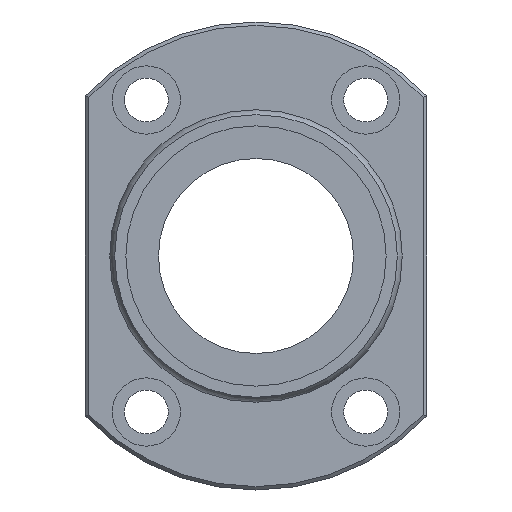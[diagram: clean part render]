
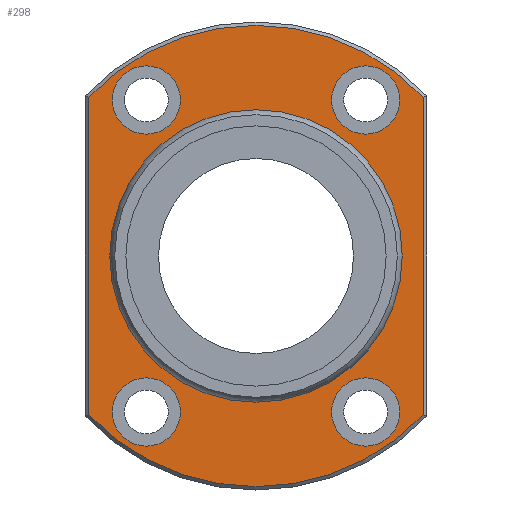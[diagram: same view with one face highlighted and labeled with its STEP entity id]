
A CAD part, left-side view. The second image highlights one B-rep face of the part: STEP entity #298.
In plain terms, the highlighted planar face has unit normal (-1, 0, 0).
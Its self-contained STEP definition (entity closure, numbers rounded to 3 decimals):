
#59=CARTESIAN_POINT('',(70.0,-34.3,32.57));
#60=VERTEX_POINT('',#59);
#68=CARTESIAN_POINT('',(70.0,-34.3,-32.57));
#69=VERTEX_POINT('',#68);
#70=CARTESIAN_POINT('',(70.0,-34.3,32.57));
#71=DIRECTION('',(0.0,0.0,-1.0));
#72=VECTOR('',#71,65.14);
#73=LINE('',#70,#72);
#74=EDGE_CURVE('',#60,#69,#73,.T.);
#101=CARTESIAN_POINT('',(70.0,34.3,-32.57));
#102=VERTEX_POINT('',#101);
#103=CARTESIAN_POINT('',(70.0,0.0,0.0));
#104=DIRECTION('',(1.0,0.0,0.0));
#105=DIRECTION('',(0.0,0.0,-1.0));
#106=AXIS2_PLACEMENT_3D('',#103,#104,#105);
#107=CIRCLE('',#106,47.3);
#108=EDGE_CURVE('',#69,#102,#107,.T.);
#134=CARTESIAN_POINT('',(70.0,34.3,32.57));
#135=VERTEX_POINT('',#134);
#136=CARTESIAN_POINT('',(70.0,34.3,-32.57));
#137=DIRECTION('',(0.0,0.0,1.0));
#138=VECTOR('',#137,65.14);
#139=LINE('',#136,#138);
#140=EDGE_CURVE('',#102,#135,#139,.T.);
#165=CARTESIAN_POINT('',(70.0,0.0,0.0));
#166=DIRECTION('',(1.0,0.0,0.0));
#167=DIRECTION('',(0.0,0.0,1.0));
#168=AXIS2_PLACEMENT_3D('',#165,#166,#167);
#169=CIRCLE('',#168,47.3);
#170=EDGE_CURVE('',#135,#60,#169,.T.);
#232=CARTESIAN_POINT('',(70.0,0.0,38.834));
#233=DIRECTION('',(-1.0,0.0,0.0));
#234=DIRECTION('',(0.0,0.0,1.0));
#235=AXIS2_PLACEMENT_3D('',#232,#233,#234);
#236=PLANE('',#235);
#237=ORIENTED_EDGE('',*,*,#74,.F.);
#238=ORIENTED_EDGE('',*,*,#170,.F.);
#239=ORIENTED_EDGE('',*,*,#140,.F.);
#240=ORIENTED_EDGE('',*,*,#108,.F.);
#241=EDGE_LOOP('',(#237,#238,#239,#240));
#242=FACE_OUTER_BOUND('',#241,.T.);
#243=CARTESIAN_POINT('',(70.0,0.0,29.668));
#244=VERTEX_POINT('',#243);
#245=CARTESIAN_POINT('',(70.0,0.0,0.0));
#246=DIRECTION('',(-1.0,0.0,0.0));
#247=DIRECTION('',(0.0,0.0,1.0));
#248=AXIS2_PLACEMENT_3D('',#245,#246,#247);
#249=CIRCLE('',#248,29.668);
#250=EDGE_CURVE('',#244,#244,#249,.T.);
#251=ORIENTED_EDGE('',*,*,#250,.F.);
#252=EDGE_LOOP('',(#251));
#253=FACE_BOUND('',#252,.T.);
#254=CARTESIAN_POINT('',(70.0,-15.5,-32.0));
#255=VERTEX_POINT('',#254);
#256=CARTESIAN_POINT('',(70.0,-22.5,-32.0));
#257=DIRECTION('',(1.0,0.0,0.0));
#258=DIRECTION('',(0.0,1.0,0.0));
#259=AXIS2_PLACEMENT_3D('',#256,#257,#258);
#260=CIRCLE('',#259,7.);
#261=EDGE_CURVE('',#255,#255,#260,.T.);
#262=ORIENTED_EDGE('',*,*,#261,.T.);
#263=EDGE_LOOP('',(#262));
#264=FACE_BOUND('',#263,.T.);
#265=CARTESIAN_POINT('',(70.0,-15.5,32.0));
#266=VERTEX_POINT('',#265);
#267=CARTESIAN_POINT('',(70.0,-22.5,32.0));
#268=DIRECTION('',(1.0,0.0,0.0));
#269=DIRECTION('',(0.0,1.0,0.0));
#270=AXIS2_PLACEMENT_3D('',#267,#268,#269);
#271=CIRCLE('',#270,7.);
#272=EDGE_CURVE('',#266,#266,#271,.T.);
#273=ORIENTED_EDGE('',*,*,#272,.T.);
#274=EDGE_LOOP('',(#273));
#275=FACE_BOUND('',#274,.T.);
#276=CARTESIAN_POINT('',(70.0,29.5,-32.0));
#277=VERTEX_POINT('',#276);
#278=CARTESIAN_POINT('',(70.0,22.5,-32.0));
#279=DIRECTION('',(1.0,0.0,0.0));
#280=DIRECTION('',(0.0,1.0,0.0));
#281=AXIS2_PLACEMENT_3D('',#278,#279,#280);
#282=CIRCLE('',#281,7.);
#283=EDGE_CURVE('',#277,#277,#282,.T.);
#284=ORIENTED_EDGE('',*,*,#283,.T.);
#285=EDGE_LOOP('',(#284));
#286=FACE_BOUND('',#285,.T.);
#287=CARTESIAN_POINT('',(70.0,29.5,32.0));
#288=VERTEX_POINT('',#287);
#289=CARTESIAN_POINT('',(70.0,22.5,32.0));
#290=DIRECTION('',(1.0,0.0,0.0));
#291=DIRECTION('',(0.0,1.0,0.0));
#292=AXIS2_PLACEMENT_3D('',#289,#290,#291);
#293=CIRCLE('',#292,7.);
#294=EDGE_CURVE('',#288,#288,#293,.T.);
#295=ORIENTED_EDGE('',*,*,#294,.T.);
#296=EDGE_LOOP('',(#295));
#297=FACE_BOUND('',#296,.T.);
#298=ADVANCED_FACE('',(#242,#253,#264,#275,#286,#297),#236,.T.);
